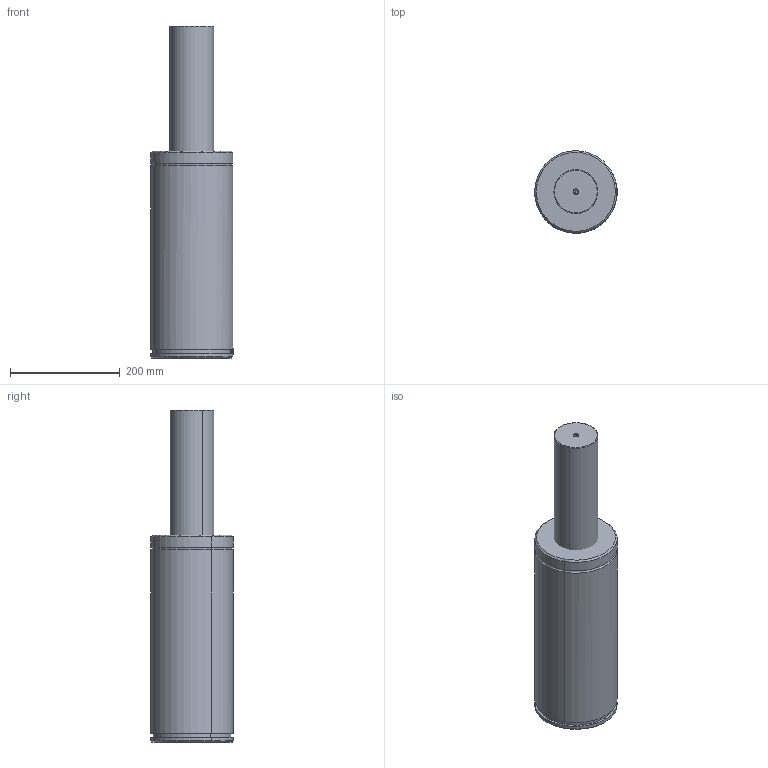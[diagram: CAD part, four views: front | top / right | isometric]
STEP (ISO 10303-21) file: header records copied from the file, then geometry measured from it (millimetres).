
FILE_DESCRIPTION(('CATIA V5 STEP Exchange'),'2;1');
FILE_NAME('W:\CATALOGO GENERAL 2018\FICHEROS CAD\004-TPS\TPS 7500\TPS 7500x225.stp','2017-11-20T15:09:45+00:00',('none'),('none'),'CATIA Version 5 Release 17 (IN-10)','CATIA V5 STEP AP203','none');
FILE_SCHEMA(('CONFIG_CONTROL_DESIGN'));
Length unit declared in the file: millimetre
Products named in the file (1): TPS 7500x225
Assembly tree (3 placements, depth 2):
  TPS 7500x225
    #56
    #897
    #2432
Bounding box: 150.62 x 149.96 x 605 mm (x, y, z)
Volume: 8068642.4 mm3; surface area: 326895.4 mm2
Topology: 3 solids, 3 shells, 170 faces, 368 edges, 205 vertices
Faces by surface type: cone 62, cylinder 45, torus 40, plane 23
Entity records: 4173 total; most frequent: CARTESIAN_POINT 792, ORIENTED_EDGE 708, DIRECTION 562, EDGE_CURVE 354, AXIS2_PLACEMENT_3D 326, CIRCLE 212, VERTEX_POINT 205, EDGE_LOOP 187
